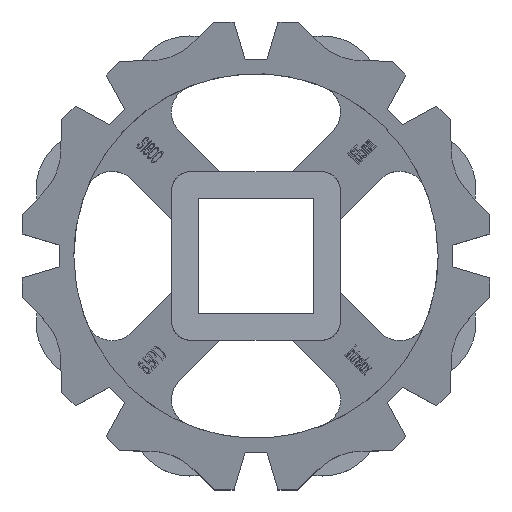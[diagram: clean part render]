
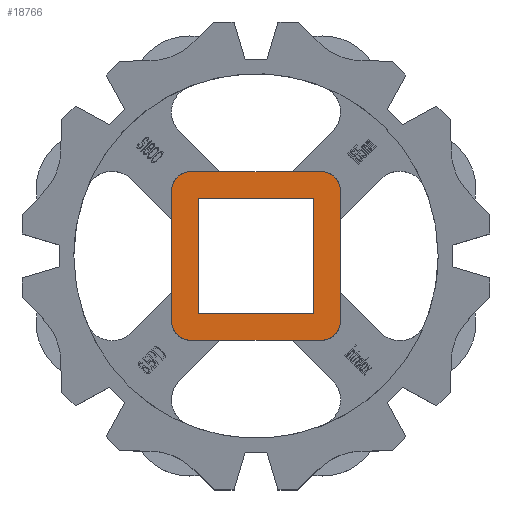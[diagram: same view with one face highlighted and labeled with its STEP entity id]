
A CAD part, top view. The second image highlights one B-rep face of the part: STEP entity #18766.
In plain terms, the highlighted planar face has unit normal (0, 0, 1).
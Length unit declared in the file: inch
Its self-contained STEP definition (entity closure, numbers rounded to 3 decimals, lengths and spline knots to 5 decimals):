
#5025=CARTESIAN_POINT('',(0.85,0.85,0.99));
#5026=DIRECTION('',(0.,0.,-1.));
#5027=DIRECTION('',(0.,1.,0.));
#5028=AXIS2_PLACEMENT_3D('',#5025,#5026,#5027);
#5062=CARTESIAN_POINT('',(0.85,-0.85,0.99));
#5063=DIRECTION('',(0.,0.,-1.));
#5064=DIRECTION('',(1.,0.,0.));
#5065=AXIS2_PLACEMENT_3D('',#5062,#5063,#5064);
#5169=CARTESIAN_POINT('',(-0.85,-0.85,0.99));
#5170=DIRECTION('',(0.,0.,-1.));
#5171=DIRECTION('',(0.,-1.,0.));
#5172=AXIS2_PLACEMENT_3D('',#5169,#5170,#5171);
#5174=DIRECTION('',(0.,-1.,0.));
#5175=VECTOR('',#5174,1.7);
#5176=CARTESIAN_POINT('',(-1.1,0.85,0.99));
#5177=LINE('',#5176,#5175);
#5178=DIRECTION('',(-1.,0.,0.));
#5179=VECTOR('',#5178,1.7);
#5180=CARTESIAN_POINT('',(0.85,1.1,0.99));
#5181=LINE('',#5180,#5179);
#5182=DIRECTION('',(0.,1.,0.));
#5183=VECTOR('',#5182,1.7);
#5184=CARTESIAN_POINT('',(1.1,-0.85,0.99));
#5185=LINE('',#5184,#5183);
#5186=DIRECTION('',(1.,0.,0.));
#5187=VECTOR('',#5186,1.7);
#5188=CARTESIAN_POINT('',(-0.85,-1.1,0.99));
#5189=LINE('',#5188,#5187);
#5190=DIRECTION('',(1.,0.,0.));
#5191=VECTOR('',#5190,1.5);
#5192=CARTESIAN_POINT('',(-0.75,-0.75,0.99));
#5193=LINE('',#5192,#5191);
#5194=DIRECTION('',(0.,1.,0.));
#5195=VECTOR('',#5194,1.5);
#5196=CARTESIAN_POINT('',(0.75,-0.75,0.99));
#5197=LINE('',#5196,#5195);
#5198=DIRECTION('',(-1.,0.,0.));
#5199=VECTOR('',#5198,1.5);
#5200=CARTESIAN_POINT('',(0.75,0.75,0.99));
#5201=LINE('',#5200,#5199);
#5202=DIRECTION('',(0.,-1.,0.));
#5203=VECTOR('',#5202,1.5);
#5204=CARTESIAN_POINT('',(-0.75,0.75,0.99));
#5205=LINE('',#5204,#5203);
#5226=CARTESIAN_POINT('',(-0.85,0.85,0.99));
#5227=DIRECTION('',(0.,0.,-1.));
#5228=DIRECTION('',(-1.,0.,0.));
#5229=AXIS2_PLACEMENT_3D('',#5226,#5227,#5228);
#11606=CARTESIAN_POINT('',(0.85,1.1,0.99));
#11608=VERTEX_POINT('',#11606);
#11610=CARTESIAN_POINT('',(1.1,0.85,0.99));
#11612=VERTEX_POINT('',#11610);
#11622=CARTESIAN_POINT('',(-1.1,0.85,0.99));
#11624=VERTEX_POINT('',#11622);
#11626=CARTESIAN_POINT('',(-0.85,1.1,0.99));
#11628=VERTEX_POINT('',#11626);
#11638=CARTESIAN_POINT('',(1.1,-0.85,0.99));
#11640=VERTEX_POINT('',#11638);
#11642=CARTESIAN_POINT('',(0.85,-1.1,0.99));
#11644=VERTEX_POINT('',#11642);
#11654=CARTESIAN_POINT('',(-0.85,-1.1,0.99));
#11656=VERTEX_POINT('',#11654);
#11658=CARTESIAN_POINT('',(-1.1,-0.85,0.99));
#11660=VERTEX_POINT('',#11658);
#14651=CARTESIAN_POINT('',(-0.75,-0.75,0.99));
#14652=CARTESIAN_POINT('',(0.75,-0.75,0.99));
#14653=VERTEX_POINT('',#14651);
#14654=VERTEX_POINT('',#14652);
#14655=CARTESIAN_POINT('',(0.75,0.75,0.99));
#14656=VERTEX_POINT('',#14655);
#14657=CARTESIAN_POINT('',(-0.75,0.75,0.99));
#14658=VERTEX_POINT('',#14657);
#18740=CARTESIAN_POINT('',(0.,0.,0.99));
#18741=DIRECTION('',(0.,0.,1.));
#18742=DIRECTION('',(1.,0.,0.));
#18743=AXIS2_PLACEMENT_3D('',#18740,#18741,#18742);
#18744=PLANE('',#18743);
#18745=ORIENTED_EDGE('',*,*,#16769,.F.);
#18747=ORIENTED_EDGE('',*,*,#18746,.T.);
#18748=ORIENTED_EDGE('',*,*,#18503,.F.);
#18749=ORIENTED_EDGE('',*,*,#18553,.T.);
#18750=ORIENTED_EDGE('',*,*,#18569,.F.);
#18751=ORIENTED_EDGE('',*,*,#18619,.T.);
#18752=ORIENTED_EDGE('',*,*,#18635,.F.);
#18753=ORIENTED_EDGE('',*,*,#18735,.T.);
#18754=EDGE_LOOP('',(#18745,#18747,#18748,#18749,#18750,#18751,#18752,#18753));
#18755=FACE_OUTER_BOUND('',#18754,.F.);
#18757=ORIENTED_EDGE('',*,*,#18756,.T.);
#18759=ORIENTED_EDGE('',*,*,#18758,.T.);
#18761=ORIENTED_EDGE('',*,*,#18760,.T.);
#18763=ORIENTED_EDGE('',*,*,#18762,.T.);
#18764=EDGE_LOOP('',(#18757,#18759,#18761,#18763));
#18765=FACE_BOUND('',#18764,.F.);
#18766=ADVANCED_FACE('',(#18755,#18765),#18744,.T.);
#5029=CIRCLE('',#5028,0.25);
#5066=CIRCLE('',#5065,0.25);
#5173=CIRCLE('',#5172,0.25);
#5230=CIRCLE('',#5229,0.25);
#16769=EDGE_CURVE('',#11624,#11660,#5177,.T.);
#18503=EDGE_CURVE('',#11608,#11628,#5181,.T.);
#18553=EDGE_CURVE('',#11608,#11612,#5029,.T.);
#18569=EDGE_CURVE('',#11640,#11612,#5185,.T.);
#18619=EDGE_CURVE('',#11640,#11644,#5066,.T.);
#18635=EDGE_CURVE('',#11656,#11644,#5189,.T.);
#18735=EDGE_CURVE('',#11656,#11660,#5173,.T.);
#18746=EDGE_CURVE('',#11624,#11628,#5230,.T.);
#18756=EDGE_CURVE('',#14653,#14654,#5193,.T.);
#18758=EDGE_CURVE('',#14654,#14656,#5197,.T.);
#18760=EDGE_CURVE('',#14656,#14658,#5201,.T.);
#18762=EDGE_CURVE('',#14658,#14653,#5205,.T.);
